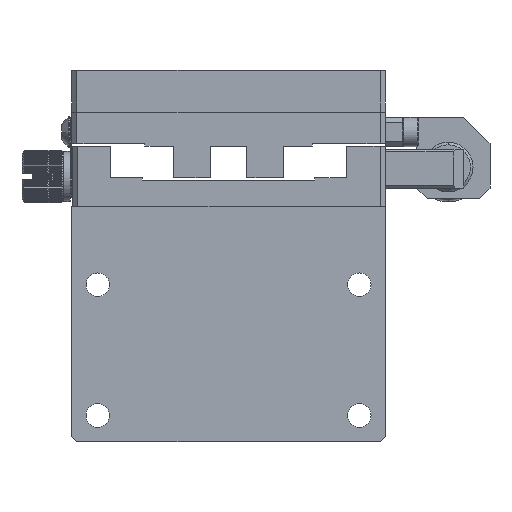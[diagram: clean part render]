
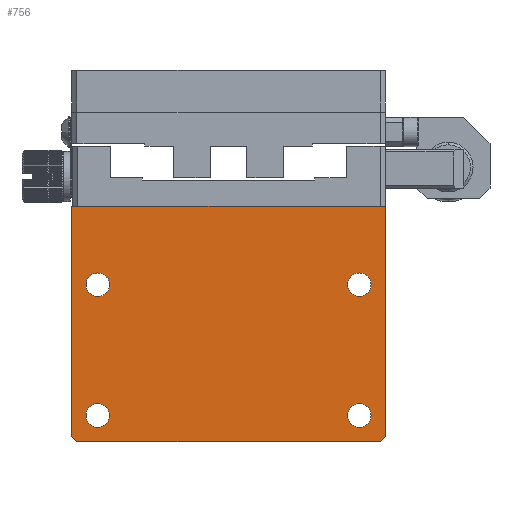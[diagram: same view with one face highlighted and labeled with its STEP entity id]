
A CAD part, front view. The second image highlights one B-rep face of the part: STEP entity #756.
In plain terms, the highlighted planar face has unit normal (0, -1, 0).
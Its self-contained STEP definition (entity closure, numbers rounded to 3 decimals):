
#18=DIRECTION('',(0.,0.,-1.));
#19=VECTOR('',#18,44.);
#20=CARTESIAN_POINT('',(-30.,0.,44.));
#21=LINE('',#20,#19);
#74=DIRECTION('',(1.,0.,0.));
#75=VECTOR('',#74,60.);
#76=CARTESIAN_POINT('',(-30.,0.,0.));
#77=LINE('',#76,#75);
#182=DIRECTION('',(0.,0.,-1.));
#183=VECTOR('',#182,44.);
#184=CARTESIAN_POINT('',(30.,0.,44.));
#185=LINE('',#184,#183);
#198=CARTESIAN_POINT('',(-25.,0.,40.));
#199=DIRECTION('',(0.,1.,0.));
#200=DIRECTION('',(1.,0.,0.));
#201=AXIS2_PLACEMENT_3D('',#198,#199,#200);
#203=CARTESIAN_POINT('',(-25.,0.,40.));
#204=DIRECTION('',(0.,1.,0.));
#205=DIRECTION('',(-1.,0.,0.));
#206=AXIS2_PLACEMENT_3D('',#203,#204,#205);
#208=CARTESIAN_POINT('',(25.,0.,40.));
#209=DIRECTION('',(0.,1.,0.));
#210=DIRECTION('',(1.,0.,0.));
#211=AXIS2_PLACEMENT_3D('',#208,#209,#210);
#213=CARTESIAN_POINT('',(25.,0.,40.));
#214=DIRECTION('',(0.,1.,0.));
#215=DIRECTION('',(-1.,0.,0.));
#216=AXIS2_PLACEMENT_3D('',#213,#214,#215);
#218=CARTESIAN_POINT('',(-25.,0.,15.));
#219=DIRECTION('',(0.,1.,0.));
#220=DIRECTION('',(1.,0.,0.));
#221=AXIS2_PLACEMENT_3D('',#218,#219,#220);
#223=CARTESIAN_POINT('',(-25.,0.,15.));
#224=DIRECTION('',(0.,1.,0.));
#225=DIRECTION('',(-1.,0.,0.));
#226=AXIS2_PLACEMENT_3D('',#223,#224,#225);
#228=CARTESIAN_POINT('',(25.,0.,15.));
#229=DIRECTION('',(0.,1.,0.));
#230=DIRECTION('',(1.,0.,0.));
#231=AXIS2_PLACEMENT_3D('',#228,#229,#230);
#233=CARTESIAN_POINT('',(25.,0.,15.));
#234=DIRECTION('',(0.,1.,0.));
#235=DIRECTION('',(-1.,0.,0.));
#236=AXIS2_PLACEMENT_3D('',#233,#234,#235);
#238=DIRECTION('',(-0.707,0.,0.707));
#239=VECTOR('',#238,1.414);
#240=CARTESIAN_POINT('',(30.,0.,44.));
#241=LINE('',#240,#239);
#242=DIRECTION('',(-0.707,0.,-0.707));
#243=VECTOR('',#242,1.414);
#244=CARTESIAN_POINT('',(-29.,0.,45.));
#245=LINE('',#244,#243);
#246=DIRECTION('',(1.,0.,0.));
#247=VECTOR('',#246,58.);
#248=CARTESIAN_POINT('',(-29.,0.,45.));
#249=LINE('',#248,#247);
#350=CARTESIAN_POINT('',(-30.,0.,0.));
#351=CARTESIAN_POINT('',(30.,0.,0.));
#352=VERTEX_POINT('',#350);
#353=VERTEX_POINT('',#351);
#362=CARTESIAN_POINT('',(-22.75,0.,40.));
#363=CARTESIAN_POINT('',(-27.25,0.,40.));
#364=VERTEX_POINT('',#362);
#365=VERTEX_POINT('',#363);
#366=CARTESIAN_POINT('',(27.25,0.,40.));
#367=CARTESIAN_POINT('',(22.75,0.,40.));
#368=VERTEX_POINT('',#366);
#369=VERTEX_POINT('',#367);
#418=CARTESIAN_POINT('',(30.,0.,44.));
#419=CARTESIAN_POINT('',(29.,0.,45.));
#420=VERTEX_POINT('',#418);
#421=VERTEX_POINT('',#419);
#430=CARTESIAN_POINT('',(-29.,0.,45.));
#431=VERTEX_POINT('',#430);
#432=CARTESIAN_POINT('',(-30.,0.,44.));
#433=VERTEX_POINT('',#432);
#442=CARTESIAN_POINT('',(-22.75,0.,15.));
#443=CARTESIAN_POINT('',(-27.25,0.,15.));
#444=VERTEX_POINT('',#442);
#445=VERTEX_POINT('',#443);
#446=CARTESIAN_POINT('',(27.25,0.,15.));
#447=CARTESIAN_POINT('',(22.75,0.,15.));
#448=VERTEX_POINT('',#446);
#449=VERTEX_POINT('',#447);
#716=CARTESIAN_POINT('',(-30.,0.,45.));
#717=DIRECTION('',(0.,-1.,0.));
#718=DIRECTION('',(0.,0.,-1.));
#719=AXIS2_PLACEMENT_3D('',#716,#717,#718);
#720=PLANE('',#719);
#722=ORIENTED_EDGE('',*,*,#721,.F.);
#723=ORIENTED_EDGE('',*,*,#706,.T.);
#724=ORIENTED_EDGE('',*,*,#496,.F.);
#725=ORIENTED_EDGE('',*,*,#463,.F.);
#727=ORIENTED_EDGE('',*,*,#726,.F.);
#729=ORIENTED_EDGE('',*,*,#728,.T.);
#730=EDGE_LOOP('',(#722,#723,#724,#725,#727,#729));
#731=FACE_OUTER_BOUND('',#730,.F.);
#733=ORIENTED_EDGE('',*,*,#732,.F.);
#735=ORIENTED_EDGE('',*,*,#734,.F.);
#736=EDGE_LOOP('',(#733,#735));
#737=FACE_BOUND('',#736,.F.);
#739=ORIENTED_EDGE('',*,*,#738,.F.);
#741=ORIENTED_EDGE('',*,*,#740,.F.);
#742=EDGE_LOOP('',(#739,#741));
#743=FACE_BOUND('',#742,.F.);
#745=ORIENTED_EDGE('',*,*,#744,.F.);
#747=ORIENTED_EDGE('',*,*,#746,.F.);
#748=EDGE_LOOP('',(#745,#747));
#749=FACE_BOUND('',#748,.F.);
#751=ORIENTED_EDGE('',*,*,#750,.F.);
#753=ORIENTED_EDGE('',*,*,#752,.F.);
#754=EDGE_LOOP('',(#751,#753));
#755=FACE_BOUND('',#754,.F.);
#756=ADVANCED_FACE('',(#731,#737,#743,#749,#755),#720,.T.);
#202=CIRCLE('',#201,2.25);
#207=CIRCLE('',#206,2.25);
#212=CIRCLE('',#211,2.25);
#217=CIRCLE('',#216,2.25);
#222=CIRCLE('',#221,2.25);
#227=CIRCLE('',#226,2.25);
#232=CIRCLE('',#231,2.25);
#237=CIRCLE('',#236,2.25);
#463=EDGE_CURVE('',#433,#352,#21,.T.);
#496=EDGE_CURVE('',#352,#353,#77,.T.);
#706=EDGE_CURVE('',#420,#353,#185,.T.);
#721=EDGE_CURVE('',#420,#421,#241,.T.);
#726=EDGE_CURVE('',#431,#433,#245,.T.);
#728=EDGE_CURVE('',#431,#421,#249,.T.);
#732=EDGE_CURVE('',#368,#369,#212,.T.);
#734=EDGE_CURVE('',#369,#368,#217,.T.);
#738=EDGE_CURVE('',#444,#445,#222,.T.);
#740=EDGE_CURVE('',#445,#444,#227,.T.);
#744=EDGE_CURVE('',#448,#449,#232,.T.);
#746=EDGE_CURVE('',#449,#448,#237,.T.);
#750=EDGE_CURVE('',#364,#365,#202,.T.);
#752=EDGE_CURVE('',#365,#364,#207,.T.);
